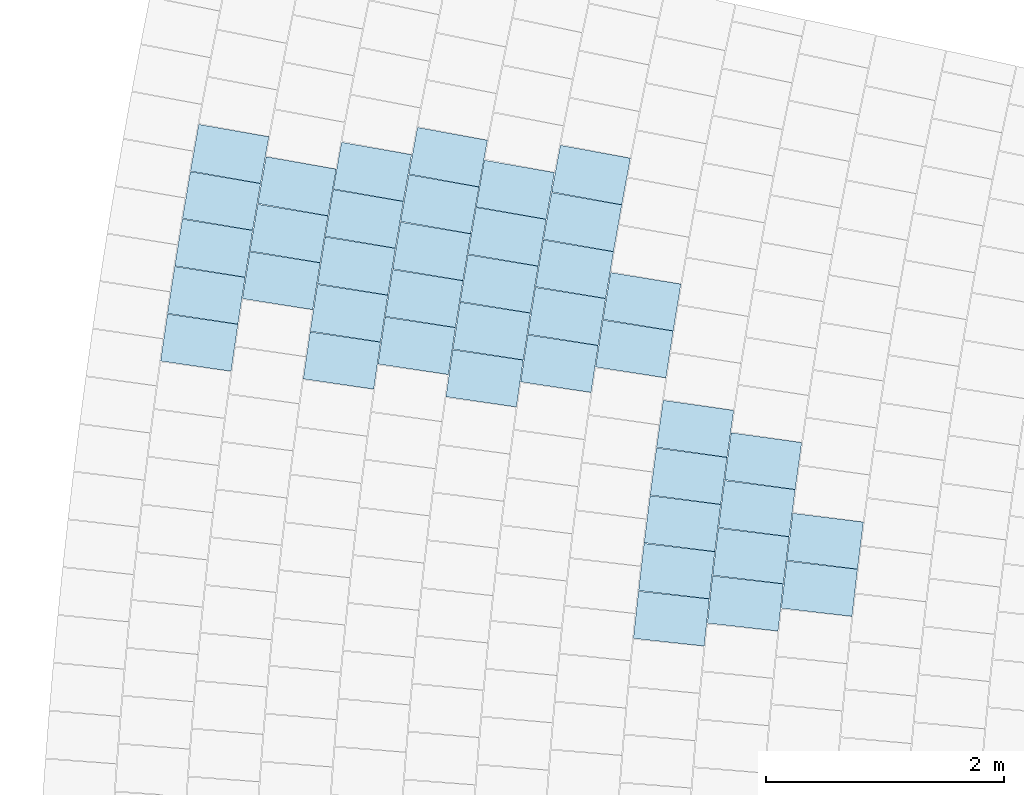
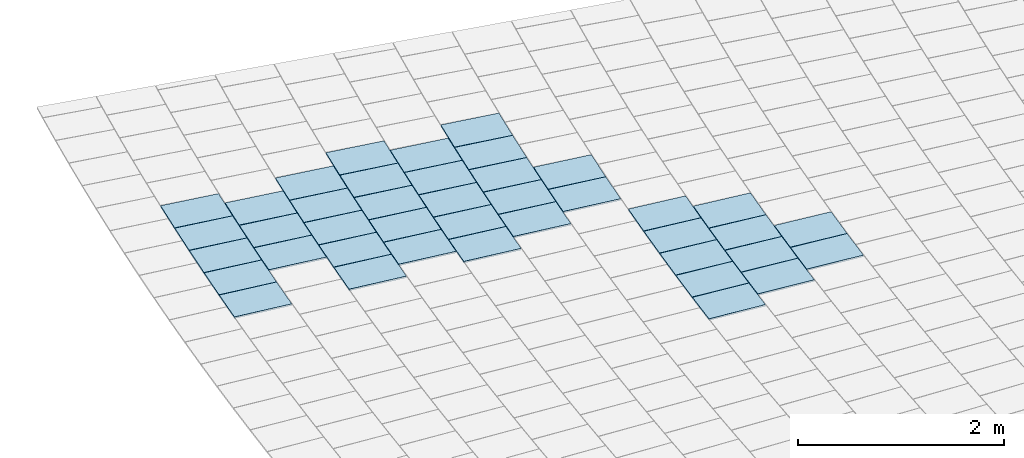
# One storey, part 90 of 438: 41 slabs.
"""IFC2X3 building model written with IfcOpenShell, lengths in millimetres."""

from ifc_helpers import new_model, entity, si_unit, converted_unit, derived_unit, direction, frame, frame_2d, origin, origin_2d_with_axis, place, context, subcontext, project, spatial, polyline, rectangle, outline, extrude, material, layer, layer_set, layer_usage, type_object, element, save


model = new_model("IFC2X3")

# Units and contexts
model_context = context("Model", 3, precision=0.01, world=origin(), true_north=direction((6.123031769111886e-17, 1.0)))
body_context = subcontext(model_context, "Body", "Model", "MODEL_VIEW")
ifc_project = project(units=[si_unit("LENGTHUNIT", "METRE", prefix="MILLI"), si_unit("AREAUNIT", "SQUARE_METRE"), si_unit("VOLUMEUNIT", "CUBIC_METRE"), converted_unit("PLANEANGLEUNIT", "DEGREE", entity("IfcRatioMeasure", 0.017453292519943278), si_unit("PLANEANGLEUNIT", "RADIAN"), dimensions=[0, 0, 0, 0, 0, 0, 0]), si_unit("MASSUNIT", "GRAM", prefix="KILO"), derived_unit("MASSDENSITYUNIT", [(si_unit("MASSUNIT", "GRAM", prefix="KILO"), 1), (si_unit("LENGTHUNIT", "METRE"), -3)]), derived_unit("MOMENTOFINERTIAUNIT", [(si_unit("LENGTHUNIT", "METRE"), 4)]), si_unit("TIMEUNIT", "SECOND"), si_unit("FREQUENCYUNIT", "HERTZ"), si_unit("THERMODYNAMICTEMPERATUREUNIT", "DEGREE_CELSIUS"), derived_unit("THERMALTRANSMITTANCEUNIT", [(si_unit("MASSUNIT", "GRAM", prefix="KILO"), 1), (si_unit("THERMODYNAMICTEMPERATUREUNIT", "KELVIN"), -1), (si_unit("TIMEUNIT", "SECOND"), -3)]), derived_unit("THERMALCONDUCTANCEUNIT", [(si_unit("MASSUNIT", "GRAM", prefix="KILO"), 1), (si_unit("LENGTHUNIT", "METRE"), 1), (si_unit("THERMODYNAMICTEMPERATUREUNIT", "KELVIN"), -1), (si_unit("TIMEUNIT", "SECOND"), -3)]), derived_unit("VOLUMETRICFLOWRATEUNIT", [(si_unit("LENGTHUNIT", "METRE"), 3), (si_unit("TIMEUNIT", "SECOND"), -1)]), derived_unit("MASSFLOWRATEUNIT", [(si_unit("MASSUNIT", "GRAM", prefix="KILO"), 1), (si_unit("TIMEUNIT", "SECOND"), -1)]), derived_unit("ROTATIONALFREQUENCYUNIT", [(si_unit("TIMEUNIT", "SECOND"), -1)]), si_unit("ELECTRICCURRENTUNIT", "AMPERE"), si_unit("ELECTRICVOLTAGEUNIT", "VOLT"), si_unit("POWERUNIT", "WATT"), converted_unit("FORCEUNIT", "KIP", entity("IfcRatioMeasure", 2.088543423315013e-05), si_unit("FORCEUNIT", "NEWTON"), dimensions=[1, 1, -2, 0, 0, 0, 0]), si_unit("ILLUMINANCEUNIT", "LUX"), si_unit("LUMINOUSFLUXUNIT", "LUMEN"), si_unit("LUMINOUSINTENSITYUNIT", "CANDELA"), derived_unit("USERDEFINED", [(si_unit("MASSUNIT", "GRAM", prefix="KILO"), -1), (si_unit("LENGTHUNIT", "METRE"), -2), (si_unit("TIMEUNIT", "SECOND"), 3), (si_unit("LUMINOUSFLUXUNIT", "LUMEN"), 1)]), derived_unit("USERDEFINED", [(si_unit("MASSUNIT", "GRAM", prefix="KILO"), 1), (si_unit("LENGTHUNIT", "METRE"), 3), (si_unit("TIMEUNIT", "SECOND"), -3), (si_unit("ELECTRICCURRENTUNIT", "AMPERE"), -2)]), derived_unit("USERDEFINED", [(si_unit("LENGTHUNIT", "METRE"), 2), (si_unit("TIMEUNIT", "SECOND"), -2)]), derived_unit("SOUNDPOWERUNIT", [(si_unit("MASSUNIT", "GRAM", prefix="KILO"), 1), (si_unit("LENGTHUNIT", "METRE"), 2), (si_unit("TIMEUNIT", "SECOND"), -3)]), derived_unit("SOUNDPRESSUREUNIT", [(si_unit("MASSUNIT", "GRAM", prefix="KILO"), 1), (si_unit("LENGTHUNIT", "METRE"), -1), (si_unit("TIMEUNIT", "SECOND"), -2)]), derived_unit("LINEARVELOCITYUNIT", [(si_unit("LENGTHUNIT", "METRE"), 1), (si_unit("TIMEUNIT", "SECOND"), -1)]), si_unit("PRESSUREUNIT", "PASCAL"), derived_unit("USERDEFINED", [(si_unit("LENGTHUNIT", "METRE"), -2), (si_unit("MASSUNIT", "GRAM", prefix="KILO"), 1), (si_unit("TIMEUNIT", "SECOND"), -2)]), derived_unit("LINEARFORCEUNIT", [(si_unit("MASSUNIT", "GRAM", prefix="KILO"), 1), (si_unit("LENGTHUNIT", "METRE"), 1), (si_unit("TIMEUNIT", "SECOND"), -2), (si_unit("LENGTHUNIT", "METRE"), -1)]), derived_unit("PLANARFORCEUNIT", [(si_unit("MASSUNIT", "GRAM", prefix="KILO"), 1), (si_unit("LENGTHUNIT", "METRE"), 1), (si_unit("TIMEUNIT", "SECOND"), -2), (si_unit("LENGTHUNIT", "METRE"), -2)]), derived_unit("SPECIFICHEATCAPACITYUNIT", [(si_unit("LENGTHUNIT", "METRE"), 2), (si_unit("TIMEUNIT", "SECOND"), -2), (si_unit("THERMODYNAMICTEMPERATUREUNIT", "KELVIN"), -1)]), derived_unit("VAPORPERMEABILITYUNIT", [(si_unit("TIMEUNIT", "SECOND"), 1), (si_unit("LENGTHUNIT", "METRE"), -1)]), derived_unit("DYNAMICVISCOSITYUNIT", [(si_unit("MASSUNIT", "GRAM", prefix="KILO"), 1), (si_unit("LENGTHUNIT", "METRE"), -1), (si_unit("TIMEUNIT", "SECOND"), -1)]), derived_unit("THERMALEXPANSIONCOEFFICIENTUNIT", [(si_unit("THERMODYNAMICTEMPERATUREUNIT", "KELVIN"), -1)])], contexts=[model_context])

# Site, building, storey
site_placement = place(None, frame((0.0, 0.0, 0.0), z_axis=(0.0, 0.0, 1.0), x_axis=(0.8191520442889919, 0.5735764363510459, 0.0)))
site = spatial("IfcSite", under=ifc_project, at=site_placement, Name="Default", CompositionType="ELEMENT")
building_placement = place(site_placement, origin())
building = spatial("IfcBuilding", under=site, at=building_placement, CompositionType="ELEMENT")
storey_placement = place(building_placement, origin())
storey = spatial("IfcBuildingStorey", under=building, at=storey_placement, Name="PLAN", CompositionType="ELEMENT", Elevation=0.0)

# Slabs
ifc_material = material(Name="Paint-01")
ifc_layer = layer(ifc_material, 20.00000000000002)
ifc_layer_set = layer_set([ifc_layer], Name="Floor:Slab-179:1000")
ifc_layer_usage = layer_usage(ifc_layer_set, "AXIS3", "POSITIVE", 0.0)
slab_type = type_object("IfcSlabType", Name="Floor:Slab-179:1000", PredefinedType="FLOOR", material=ifc_layer_set)
slab_1_placement = place(storey_placement, origin())
element("IfcSlab", 1, at=slab_1_placement, inside=storey, type_object=slab_type, material=ifc_layer_usage, Name="Floor:Slab-179:1000", ObjectType="Floor:Slab-179:1000", PredefinedType="FLOOR", context=body_context, shape_type="SweptSolid", body=[
    extrude(outline(polyline([(-300.0, -200.0000029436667), (299.9999976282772, -200.0000029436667), (300.0, 200.00000294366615), (-299.9999976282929, 200.00000294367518), (-300.0, -200.0000029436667)])), frame((-74810.87647512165, -36460.84597820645, 520.0), z_axis=(0.0, 0.0, -1.0), x_axis=(0.7385173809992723, -0.6742344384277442, 0.0)), (0.0, 0.0, 1.0), 20.000000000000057),
])
slab_2_placement = place(storey_placement, origin())
element("IfcSlab", 2, at=slab_2_placement, inside=storey, type_object=slab_type, material=ifc_layer_usage, Name="Floor:Slab-179:1000", ObjectType="Floor:Slab-179:1000", PredefinedType="FLOOR", context=body_context, shape_type="SweptSolid", body=[
    extrude(outline(polyline([(-300.0, -200.0000029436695), (299.9999976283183, -200.00000294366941), (300.0, 200.0000029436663), (-299.9999976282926, 200.00000294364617), (-300.0, -200.0000029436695)])), frame((-74497.71648717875, -37015.777735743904, 520.0), z_axis=(0.0, 0.0, -1.0), x_axis=(0.7414166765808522, -0.6710449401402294, 0.0)), (0.0, 0.0, 1.0), 20.000000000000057),
])
slab_3_placement = place(storey_placement, origin())
element("IfcSlab", 3, at=slab_3_placement, inside=storey, type_object=slab_type, material=ifc_layer_usage, Name="Floor:Slab-179:1000", ObjectType="Floor:Slab-179:1000", PredefinedType="FLOOR", context=body_context, shape_type="SweptSolid", body=[
    extrude(outline(polyline([(-300.0, -200.00000294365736), (299.9999976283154, -200.00000294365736), (300.0, 200.00000294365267), (-299.99999762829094, 200.0000029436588), (-300.0, -200.00000294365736)])), frame((-74766.58404899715, -37315.46142277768, 520.0), z_axis=(0.0, 0.0, -1.0), x_axis=(0.7472495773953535, -0.6645435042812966, 0.0)), (0.0, 0.0, 1.0), 20.000000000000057),
])
slab_4_placement = place(storey_placement, origin())
element("IfcSlab", 4, at=slab_4_placement, inside=storey, type_object=slab_type, material=ifc_layer_usage, Name="Floor:Slab-179:1000", ObjectType="Floor:Slab-179:1000", PredefinedType="FLOOR", context=body_context, shape_type="SweptSolid", body=[
    extrude(outline(polyline([(-299.99999762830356, -200.000002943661), (300.0, -200.0000029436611), (299.99999762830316, 200.00000294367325), (-300.0, 200.00000294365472), (-299.99999762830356, -200.000002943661)])), frame((-74538.16251388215, -36164.70455100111, 520.0), z_axis=(0.0, 0.0, -1.0), x_axis=(0.7326776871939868, -0.6805757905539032, 0.0)), (0.0, 0.0, 1.0), 20.000000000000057),
])
slab_5_placement = place(storey_placement, origin())
element("IfcSlab", 5, at=slab_5_placement, inside=storey, type_object=slab_type, material=ifc_layer_usage, Name="Floor:Slab-179:1000", ObjectType="Floor:Slab-179:1000", PredefinedType="FLOOR", context=body_context, shape_type="SweptSolid", body=[
    extrude(outline(polyline([(-300.0, -200.00000294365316), (299.9999976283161, -200.00000294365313), (300.0, 200.00000294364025), (-299.9999976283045, 200.000002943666), (-300.0, -200.00000294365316)])), frame((-75081.02740540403, -36759.32733851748, 520.0), z_axis=(0.0, 0.0, -1.0), x_axis=(0.7443021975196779, -0.6678429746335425, 0.0)), (0.0, 0.0, 1.0), 20.000000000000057),
])
slab_6_placement = place(storey_placement, origin())
element("IfcSlab", 6, at=slab_6_placement, inside=storey, type_object=slab_type, material=ifc_layer_usage, Name="Floor:Slab-179:1000", ObjectType="Floor:Slab-179:1000", PredefinedType="FLOOR", context=body_context, shape_type="SweptSolid", body=[
    extrude(outline(polyline([(-300.0, -200.00000294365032), (299.99999762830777, -200.00000294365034), (300.0, 200.00000294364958), (-299.9999976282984, 200.00000294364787), (-300.0, -200.00000294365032)])), frame((-75348.59523015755, -37060.126452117, 520.0), z_axis=(0.0, 0.0, -1.0), x_axis=(0.7500317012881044, -0.6614018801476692, 0.0)), (0.0, 0.0, 1.0), 20.000000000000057),
])
slab_7_placement = place(storey_placement, origin())
element("IfcSlab", 7, at=slab_7_placement, inside=storey, type_object=slab_type, material=ifc_layer_usage, Name="Floor:Slab-179:1000", ObjectType="Floor:Slab-179:1000", PredefinedType="FLOOR", context=body_context, shape_type="SweptSolid", body=[
    extrude(outline(polyline([(-300.0, -200.00000294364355), (299.9999976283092, -200.00000294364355), (300.0, 200.00000294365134), (-299.9999976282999, 200.00000294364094), (-300.0, -200.00000294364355)])), frame((-75396.56206229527, -36205.72643302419, 520.0), z_axis=(0.0, 0.0, -1.0), x_axis=(0.7414532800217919, -0.6710044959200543, 0.0)), (0.0, 0.0, 1.0), 19.99999999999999),
])
slab_8_placement = place(storey_placement, origin())
element("IfcSlab", 8, at=slab_8_placement, inside=storey, type_object=slab_type, material=ifc_layer_usage, Name="Floor:Slab-179:1000", ObjectType="Floor:Slab-179:1000", PredefinedType="FLOOR", context=body_context, shape_type="SweptSolid", body=[
    extrude(outline(polyline([(-300.0, -200.00000294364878), (299.99999762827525, -200.00000294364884), (300.0, 200.00000294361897), (-299.9999976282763, 200.00000294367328), (-300.0, -200.00000294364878)])), frame((-75125.18218441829, -35908.406930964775, 520.0), z_axis=(0.0, 0.0, -1.0), x_axis=(0.7357164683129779, -0.6772896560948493, 0.0)), (0.0, 0.0, 1.0), 19.99999999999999),
])
slab_9_placement = place(storey_placement, origin())
element("IfcSlab", 9, at=slab_9_placement, inside=storey, type_object=slab_type, material=ifc_layer_usage, Name="Floor:Slab-179:1000", ObjectType="Floor:Slab-179:1000", PredefinedType="FLOOR", context=body_context, shape_type="SweptSolid", body=[
    extrude(outline(polyline([(-300.0, -200.00000294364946), (299.99999762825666, -200.00000294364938), (300.0, 200.00000294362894), (-299.99999762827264, 200.00000294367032), (-300.0, -200.00000294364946)])), frame((-74851.28206861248, -35613.407522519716, 520.0), z_axis=(0.0, 0.0, -1.0), x_axis=(0.7299263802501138, -0.6835257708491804, 0.0)), (0.0, 0.0, 1.0), 20.000000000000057),
])
slab_10_placement = place(storey_placement, origin())
element("IfcSlab", 10, at=slab_10_placement, inside=storey, type_object=slab_type, material=ifc_layer_usage, Name="Floor:Slab-179:1000", ObjectType="Floor:Slab-179:1000", PredefinedType="FLOOR", context=body_context, shape_type="SweptSolid", body=[
    extrude(outline(polyline([(-299.9999976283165, -200.0000029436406), (300.0, -200.00000294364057), (299.9999976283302, 200.0000029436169), (-300.0, 200.00000294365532), (-299.9999976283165, -200.0000029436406)])), frame((-75665.40205047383, -36505.34449853, 520.0), z_axis=(0.0, 0.0, -1.0), x_axis=(0.7471363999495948, -0.6646707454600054, 0.0)), (0.0, 0.0, 1.0), 19.99999999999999),
])
slab_11_placement = place(storey_placement, origin())
element("IfcSlab", 11, at=slab_11_placement, inside=storey, type_object=slab_type, material=ifc_layer_usage, Name="Floor:Slab-179:1000", ObjectType="Floor:Slab-179:1000", PredefinedType="FLOOR", context=body_context, shape_type="SweptSolid", body=[
    extrude(outline(polyline([(-299.99999762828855, -200.00000294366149), (300.0, -200.0000029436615), (299.9999976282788, 200.000002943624), (-300.0, 200.00000294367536), (-299.99999762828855, -200.00000294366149)])), frame((-75931.68268110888, -36807.2394308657, 520.0), z_axis=(0.0, 0.0, -1.0), x_axis=(0.7527654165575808, -0.6582888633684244, 0.0)), (0.0, 0.0, 1.0), 19.999999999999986),
])
slab_12_placement = place(storey_placement, origin())
element("IfcSlab", 12, at=slab_12_placement, inside=storey, type_object=slab_type, material=ifc_layer_usage, Name="Floor:Slab-179:1000", ObjectType="Floor:Slab-179:1000", PredefinedType="FLOOR", context=body_context, shape_type="SweptSolid", body=[
    extrude(outline(polyline([(-300.0, -200.00000294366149), (299.99999762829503, -200.0000029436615), (300.0, 200.00000294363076), (-299.99999762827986, 200.00000294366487), (-300.0, -200.00000294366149)])), frame((-74884.60050148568, -34769.247682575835, 520.0), z_axis=(0.0, 0.0, -1.0), x_axis=(0.7214044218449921, -0.6925140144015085, 0.0)), (0.0, 0.0, 1.0), 20.000000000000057),
])
slab_13_placement = place(storey_placement, origin())
element("IfcSlab", 13, at=slab_13_placement, inside=storey, type_object=slab_type, material=ifc_layer_usage, Name="Floor:Slab-179:1000", ObjectType="Floor:Slab-179:1000", PredefinedType="FLOOR", context=body_context, shape_type="SweptSolid", body=[
    extrude(outline(polyline([(-300.0, -200.0000029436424), (299.99999762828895, -200.00000294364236), (300.0, 200.00000294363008), (-299.99999762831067, 200.00000294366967), (-300.0, -200.0000029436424)])), frame((-74604.63453712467, -34480.043705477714, 520.0), z_axis=(0.0, 0.0, -1.0), x_axis=(0.7155608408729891, -0.6985504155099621, 0.0)), (0.0, 0.0, 1.0), 20.000000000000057),
])
slab_14_placement = place(storey_placement, origin())
element("IfcSlab", 14, at=slab_14_placement, inside=storey, type_object=slab_type, material=ifc_layer_usage, Name="Floor:Slab-179:1000", ObjectType="Floor:Slab-179:1000", PredefinedType="FLOOR", context=body_context, shape_type="SweptSolid", body=[
    extrude(outline(polyline([(-300.0, -200.00000294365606), (299.99999762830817, -200.00000294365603), (300.0, 200.0000029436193), (-299.99999762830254, 200.00000294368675), (-300.0, -200.00000294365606)])), frame((-75193.8333011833, -34218.25282970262, 520.0), z_axis=(0.0, 0.0, -1.0), x_axis=(0.7187822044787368, -0.6952353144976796, 0.0)), (0.0, 0.0, 1.0), 20.000000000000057),
])
slab_15_placement = place(storey_placement, origin())
element("IfcSlab", 15, at=slab_15_placement, inside=storey, type_object=slab_type, material=ifc_layer_usage, Name="Floor:Slab-179:1000", ObjectType="Floor:Slab-179:1000", PredefinedType="FLOOR", context=body_context, shape_type="SweptSolid", body=[
    extrude(outline(polyline([(-300.0, -200.00000294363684), (299.99999762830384, -200.00000294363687), (300.0, 200.00000294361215), (-299.99999762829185, 200.0000029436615), (-300.0, -200.00000294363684)])), frame((-74912.81361977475, -33930.11669514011, 520.0), z_axis=(0.0, 0.0, -1.0), x_axis=(0.7129897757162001, -0.7011744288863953, 0.0)), (0.0, 0.0, 1.0), 20.000000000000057),
])
slab_16_placement = place(storey_placement, origin())
element("IfcSlab", 16, at=slab_16_placement, inside=storey, type_object=slab_type, material=ifc_layer_usage, Name="Floor:Slab-179:1000", ObjectType="Floor:Slab-179:1000", PredefinedType="FLOOR", context=body_context, shape_type="SweptSolid", body=[
    extrude(rectangle(XDim=599.9999963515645, YDim=400.00000519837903, at=frame_2d((-1.5063505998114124e-12, -1.5205614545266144e-12), x_axis=(1.0, 0.0))), frame((-74629.39247438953, -33644.31767525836, 520.0), z_axis=(0.0, 0.0, -1.0), x_axis=(0.7071067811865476, -0.7071067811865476, 0.0)), (0.0, 0.0, 1.0), 20.000000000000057),
])
slab_17_placement = place(storey_placement, origin())
element("IfcSlab", 17, at=slab_17_placement, inside=storey, type_object=slab_type, material=ifc_layer_usage, Name="Floor:Slab-179:1000", ObjectType="Floor:Slab-179:1000", PredefinedType="FLOOR", context=body_context, shape_type="SweptSolid", body=[
    extrude(outline(polyline([(-300.0, -200.00000294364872), (299.99999762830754, -200.00000294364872), (300.0, 200.0000029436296), (-299.99999762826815, 200.00000294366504), (-300.0, -200.00000294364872)])), frame((-75472.45292572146, -34508.71039665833, 520.0), z_axis=(0.0, 0.0, -1.0), x_axis=(0.7245251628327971, -0.6892483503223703, 0.0)), (0.0, 0.0, 1.0), 20.000000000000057),
])
slab_18_placement = place(storey_placement, origin())
element("IfcSlab", 18, at=slab_18_placement, inside=storey, type_object=slab_type, material=ifc_layer_usage, Name="Floor:Slab-179:1000", ObjectType="Floor:Slab-179:1000", PredefinedType="FLOOR", context=body_context, shape_type="SweptSolid", body=[
    extrude(outline(polyline([(-300.0, -200.00000294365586), (299.9999976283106, -200.0000029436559), (300.0, 200.00000294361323), (-299.9999976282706, 200.00000294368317), (-300.0, -200.00000294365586)])), frame((-74343.65161526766, -33360.88788629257, 520.0), z_axis=(0.0, 0.0, -1.0), x_axis=(0.7012581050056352, -0.7129074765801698, 0.0)), (0.0, 0.0, 1.0), 20.000000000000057),
])
slab_19_placement = place(storey_placement, origin())
element("IfcSlab", 19, at=slab_19_placement, inside=storey, type_object=slab_type, material=ifc_layer_usage, Name="Floor:Slab-179:1000", ObjectType="Floor:Slab-179:1000", PredefinedType="FLOOR", context=body_context, shape_type="SweptSolid", body=[
    extrude(outline(polyline([(-300.0, -200.00000294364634), (299.9999976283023, -200.00000294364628), (300.0, 200.00000294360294), (-299.99999762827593, 200.00000294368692), (-300.0, -200.00000294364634)])), frame((-76059.58285100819, -34248.814214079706, 520.0), z_axis=(0.0, 0.0, -1.0), x_axis=(0.7275543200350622, -0.6860500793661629, 0.0)), (0.0, 0.0, 1.0), 20.000000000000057),
])
slab_20_placement = place(storey_placement, origin())
element("IfcSlab", 20, at=slab_20_placement, inside=storey, type_object=slab_type, material=ifc_layer_usage, Name="Floor:Slab-179:1000", ObjectType="Floor:Slab-179:1000", PredefinedType="FLOOR", context=body_context, shape_type="SweptSolid", body=[
    extrude(outline(polyline([(-300.0, -200.00000294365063), (299.99999762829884, -200.0000029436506), (300.0, 200.00000294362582), (-299.9999976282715, 200.00000294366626), (-300.0, -200.00000294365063)])), frame((-75502.59990951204, -33667.74789107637, 520.0), z_axis=(0.0, 0.0, -1.0), x_axis=(0.7162150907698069, -0.6978796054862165, 0.0)), (0.0, 0.0, 1.0), 20.000000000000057),
])
slab_21_placement = place(storey_placement, origin())
element("IfcSlab", 21, at=slab_21_placement, inside=storey, type_object=slab_type, material=ifc_layer_usage, Name="Floor:Slab-179:1000", ObjectType="Floor:Slab-179:1000", PredefinedType="FLOOR", context=body_context, shape_type="SweptSolid", body=[
    extrude(outline(polyline([(-300.0, -200.00000294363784), (299.9999976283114, -200.00000294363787), (300.0, 200.00000294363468), (-299.99999762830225, 200.00000294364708), (-300.0, -200.00000294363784)])), frame((-75220.5565481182, -33380.65682927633, 520.0), z_axis=(0.0, 0.0, -1.0), x_axis=(0.7104731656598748, -0.7037242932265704, 0.0)), (0.0, 0.0, 1.0), 20.000000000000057),
])
slab_22_placement = place(storey_placement, origin())
element("IfcSlab", 22, at=slab_22_placement, inside=storey, type_object=slab_type, material=ifc_layer_usage, Name="Floor:Slab-179:1000", ObjectType="Floor:Slab-179:1000", PredefinedType="FLOOR", context=body_context, shape_type="SweptSolid", body=[
    extrude(rectangle(XDim=599.9964861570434, YDim=399.9976650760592, at=frame_2d((3.069544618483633e-12, -3.055333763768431e-12), x_axis=(1.0, 0.0))), frame((-74937.37999919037, -33096.128159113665, 520.0), z_axis=(0.0, 0.0, -1.0), x_axis=(0.7071067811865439, -0.7071067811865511, 0.0)), (0.0, 0.0, 1.0), 20.000000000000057),
])
slab_23_placement = place(storey_placement, origin())
element("IfcSlab", 23, at=slab_23_placement, inside=storey, type_object=slab_type, material=ifc_layer_usage, Name="Floor:Slab-179:1000", ObjectType="Floor:Slab-179:1000", PredefinedType="FLOOR", context=body_context, shape_type="SweptSolid", body=[
    extrude(outline(polyline([(-300.0, -200.00000294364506), (299.99999762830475, -200.00000294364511), (300.0, 200.0000029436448), (-299.99999762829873, 200.00000294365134), (-300.0, -200.00000294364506)])), frame((-75782.28160216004, -33957.1401616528, 520.0), z_axis=(0.0, 0.0, -1.0), x_axis=(0.7219089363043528, -0.6919880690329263, 0.0)), (0.0, 0.0, 1.0), 19.999999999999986),
])
slab_24_placement = place(storey_placement, origin())
element("IfcSlab", 24, at=slab_24_placement, inside=storey, type_object=slab_type, material=ifc_layer_usage, Name="Floor:Slab-179:1000", ObjectType="Floor:Slab-179:1000", PredefinedType="FLOOR", context=body_context, shape_type="SweptSolid", body=[
    extrude(outline(polyline([(-300.0, -200.0000029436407), (299.999997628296, -200.0000029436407), (300.0, 200.0000029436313), (-299.9999976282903, 200.0000029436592), (-300.0, -200.0000029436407)])), frame((-76370.00411283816, -33696.67747752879, 520.0), z_axis=(0.0, 0.0, -1.0), x_axis=(0.7249449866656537, -0.6888067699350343, 0.0)), (0.0, 0.0, 1.0), 19.99999999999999),
])
slab_25_placement = place(storey_placement, origin())
element("IfcSlab", 25, at=slab_25_placement, inside=storey, type_object=slab_type, material=ifc_layer_usage, Name="Floor:Slab-179:1000", ObjectType="Floor:Slab-179:1000", PredefinedType="FLOOR", context=body_context, shape_type="SweptSolid", body=[
    extrude(outline(polyline([(-300.0, -200.00000294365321), (299.9999976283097, -200.00000294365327), (300.0, 200.00000294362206), (-299.99999762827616, 200.000002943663), (-300.0, -200.00000294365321)])), frame((-76091.63306195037, -33406.06580761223, 520.0), z_axis=(0.0, 0.0, -1.0), x_axis=(0.7193467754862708, -0.6946511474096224, 0.0)), (0.0, 0.0, 1.0), 19.999999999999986),
])
slab_26_placement = place(storey_placement, origin())
element("IfcSlab", 26, at=slab_26_placement, inside=storey, type_object=slab_type, material=ifc_layer_usage, Name="Floor:Slab-179:1000", ObjectType="Floor:Slab-179:1000", PredefinedType="FLOOR", context=body_context, shape_type="SweptSolid", body=[
    extrude(outline(polyline([(-300.0, -200.00000294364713), (299.9999976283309, -200.00000294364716), (300.0, 200.00000294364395), (-299.9999976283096, 200.00000294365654), (-300.0, -200.00000294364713)])), frame((-75810.91922505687, -33117.71649438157, 520.0), z_axis=(0.0, 0.0, -1.0), x_axis=(0.7137014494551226, -0.7004500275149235, 0.0)), (0.0, 0.0, 1.0), 19.99999999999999),
])
slab_27_placement = place(storey_placement, origin())
element("IfcSlab", 27, at=slab_27_placement, inside=storey, type_object=slab_type, material=ifc_layer_usage, Name="Floor:Slab-179:1000", ObjectType="Floor:Slab-179:1000", PredefinedType="FLOOR", context=body_context, shape_type="SweptSolid", body=[
    extrude(rectangle(XDim=599.9995079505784, YDim=399.99967959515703, at=frame_2d((-1.5063505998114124e-12, 4.575895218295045e-12), x_axis=(1.0, 0.0))), frame((-75527.42940026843, -32831.55810713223, 520.0), z_axis=(0.0, 0.0, -1.0), x_axis=(0.7071067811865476, -0.7071067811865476, 0.0)), (0.0, 0.0, 1.0), 19.999999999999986),
])
slab_28_placement = place(storey_placement, origin())
element("IfcSlab", 28, at=slab_28_placement, inside=storey, type_object=slab_type, material=ifc_layer_usage, Name="Floor:Slab-179:1000", ObjectType="Floor:Slab-179:1000", PredefinedType="FLOOR", context=body_context, shape_type="SweptSolid", body=[
    extrude(outline(polyline([(-300.0, -200.00000294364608), (299.999997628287, -200.00000294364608), (300.0, 200.00000294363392), (-299.9999976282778, 200.00000294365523), (-300.0, -200.00000294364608)])), frame((-75242.53688883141, -32547.880332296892, 520.0), z_axis=(0.0, 0.0, -1.0), x_axis=(0.7022709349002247, -0.7119097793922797, 0.0)), (0.0, 0.0, 1.0), 20.000000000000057),
])
slab_29_placement = place(storey_placement, origin())
element("IfcSlab", 29, at=slab_29_placement, inside=storey, type_object=slab_type, material=ifc_layer_usage, Name="Floor:Slab-179:1000", ObjectType="Floor:Slab-179:1000", PredefinedType="FLOOR", context=body_context, shape_type="SweptSolid", body=[
    extrude(outline(polyline([(-300.0, -200.000002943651), (299.99999762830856, -200.000002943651), (300.0, 200.00000294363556), (-299.99999762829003, 200.00000294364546), (-300.0, -200.000002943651)])), frame((-76957.0244645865, -33436.83806545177, 520.0), z_axis=(0.0, 0.0, -1.0), x_axis=(0.727894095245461, -0.6856895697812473, 0.0)), (0.0, 0.0, 1.0), 19.999999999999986),
])
slab_30_placement = place(storey_placement, origin())
element("IfcSlab", 30, at=slab_30_placement, inside=storey, type_object=slab_type, material=ifc_layer_usage, Name="Floor:Slab-179:1000", ObjectType="Floor:Slab-179:1000", PredefinedType="FLOOR", context=body_context, shape_type="SweptSolid", body=[
    extrude(outline(polyline([(-300.0, -200.0000029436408), (299.99999762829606, -200.00000294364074), (300.0, 200.00000294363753), (-299.99999762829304, 200.0000029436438), (-300.0, -200.0000029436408)])), frame((-76400.52642338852, -32855.471008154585, 520.0), z_axis=(0.0, 0.0, -1.0), x_axis=(0.7168371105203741, -0.6972406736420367, 0.0)), (0.0, 0.0, 1.0), 19.99999999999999),
])
slab_31_placement = place(storey_placement, origin())
element("IfcSlab", 31, at=slab_31_placement, inside=storey, type_object=slab_type, material=ifc_layer_usage, Name="Floor:Slab-179:1000", ObjectType="Floor:Slab-179:1000", PredefinedType="FLOOR", context=body_context, shape_type="SweptSolid", body=[
    extrude(outline(polyline([(-300.0, -200.00000294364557), (299.9999976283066, -200.00000294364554), (300.0, 200.00000294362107), (-299.9999976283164, 200.0000029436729), (-300.0, -200.00000294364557)])), frame((-76679.93748089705, -33145.04220810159, 520.0), z_axis=(0.0, 0.0, -1.0), x_axis=(0.7223886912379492, -0.6914872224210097, 0.0)), (0.0, 0.0, 1.0), 19.99999999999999),
])
slab_32_placement = place(storey_placement, origin())
element("IfcSlab", 32, at=slab_32_placement, inside=storey, type_object=slab_type, material=ifc_layer_usage, Name="Floor:Slab-179:1000", ObjectType="Floor:Slab-179:1000", PredefinedType="FLOOR", context=body_context, shape_type="SweptSolid", body=[
    extrude(outline(polyline([(-300.0, -200.00000294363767), (299.9999976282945, -200.00000294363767), (300.0, 200.00000294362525), (-299.99999762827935, 200.00000294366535), (-300.0, -200.00000294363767)])), frame((-76118.80915264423, -32568.14297565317, 520.0), z_axis=(0.0, 0.0, -1.0), x_axis=(0.711239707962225, -0.7029495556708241, 0.0)), (0.0, 0.0, 1.0), 20.000000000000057),
])
slab_33_placement = place(storey_placement, origin())
element("IfcSlab", 33, at=slab_33_placement, inside=storey, type_object=slab_type, material=ifc_layer_usage, Name="Floor:Slab-179:1000", ObjectType="Floor:Slab-179:1000", PredefinedType="FLOOR", context=body_context, shape_type="SweptSolid", body=[
    extrude(rectangle(XDim=599.9986323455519, YDim=399.99909586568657, at=frame_2d((1.5347723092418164e-12, 1.5205614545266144e-12), x_axis=(1.0, 0.0))), frame((-75835.55784147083, -32283.227311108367, 520.0), z_axis=(0.0, 0.0, -1.0), x_axis=(0.7071067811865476, -0.7071067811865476, 0.0)), (0.0, 0.0, 1.0), 20.000000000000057),
])
slab_34_placement = place(storey_placement, origin())
element("IfcSlab", 34, at=slab_34_placement, inside=storey, type_object=slab_type, material=ifc_layer_usage, Name="Floor:Slab-179:1000", ObjectType="Floor:Slab-179:1000", PredefinedType="FLOOR", context=body_context, shape_type="SweptSolid", body=[
    extrude(outline(polyline([(-300.0, -200.00000294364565), (299.9999976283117, -200.00000294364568), (300.0, 200.00000294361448), (-299.9999976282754, 200.00000294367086), (-300.0, -200.00000294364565)])), frame((-76989.40227411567, -32593.89213728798, 520.0), z_axis=(0.0, 0.0, -1.0), x_axis=(0.719883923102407, -0.6940944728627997, 0.0)), (0.0, 0.0, 1.0), 20.000000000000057),
])
slab_35_placement = place(storey_placement, origin())
element("IfcSlab", 35, at=slab_35_placement, inside=storey, type_object=slab_type, material=ifc_layer_usage, Name="Floor:Slab-179:1000", ObjectType="Floor:Slab-179:1000", PredefinedType="FLOOR", context=body_context, shape_type="SweptSolid", body=[
    extrude(rectangle(XDim=599.9982147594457, YDim=399.99881746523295, at=frame_2d((4.604316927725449e-12, -1.5205614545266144e-12), x_axis=(1.0, 0.0))), frame((-76425.42483144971, -32018.839976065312, 520.0), z_axis=(0.0, 0.0, -1.0), x_axis=(0.7071067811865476, -0.7071067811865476, 0.0)), (0.0, 0.0, 1.0), 19.999999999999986),
])
slab_36_placement = place(storey_placement, origin())
element("IfcSlab", 36, at=slab_36_placement, inside=storey, type_object=slab_type, material=ifc_layer_usage, Name="Floor:Slab-179:1000", ObjectType="Floor:Slab-179:1000", PredefinedType="FLOOR", context=body_context, shape_type="SweptSolid", body=[
    extrude(outline(polyline([(-300.0, -200.00000294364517), (299.9999976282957, -200.00000294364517), (300.0, 200.00000294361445), (-299.9999976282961, 200.00000294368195), (-300.0, -200.00000294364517)])), frame((-76708.97981139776, -32305.340132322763, 520.0), z_axis=(0.0, 0.0, -1.0), x_axis=(0.7143784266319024, -0.6997595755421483, 0.0)), (0.0, 0.0, 1.0), 20.000000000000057),
])
slab_37_placement = place(storey_placement, origin())
element("IfcSlab", 37, at=slab_37_placement, inside=storey, type_object=slab_type, material=ifc_layer_usage, Name="Floor:Slab-179:1000", ObjectType="Floor:Slab-179:1000", PredefinedType="FLOOR", context=body_context, shape_type="SweptSolid", body=[
    extrude(outline(polyline([(-300.0, -200.00000294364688), (299.99999762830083, -200.00000294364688), (300.0, 200.0000029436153), (-299.9999976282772, 200.00000294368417), (-300.0, -200.00000294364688)])), frame((-77577.569920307, -32332.953125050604, 520.0), z_axis=(0.0, 0.0, -1.0), x_axis=(0.7228454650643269, -0.6910097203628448, 0.0)), (0.0, 0.0, 1.0), 20.000000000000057),
])
slab_38_placement = place(storey_placement, origin())
element("IfcSlab", 38, at=slab_38_placement, inside=storey, type_object=slab_type, material=ifc_layer_usage, Name="Floor:Slab-179:1000", ObjectType="Floor:Slab-179:1000", PredefinedType="FLOOR", context=body_context, shape_type="SweptSolid", body=[
    extrude(outline(polyline([(-300.0, -200.00000294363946), (299.9999976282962, -200.00000294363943), (300.0, 200.00000294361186), (-299.9999976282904, 200.00000294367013), (-300.0, -200.00000294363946)])), frame((-77017.01042042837, -31755.65820877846, 520.0), z_axis=(0.0, 0.0, -1.0), x_axis=(0.7119692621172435, -0.7022106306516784, 0.0)), (0.0, 0.0, 1.0), 19.999999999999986),
])
slab_39_placement = place(storey_placement, origin())
element("IfcSlab", 39, at=slab_39_placement, inside=storey, type_object=slab_type, material=ifc_layer_usage, Name="Floor:Slab-179:1000", ObjectType="Floor:Slab-179:1000", PredefinedType="FLOOR", context=body_context, shape_type="SweptSolid", body=[
    extrude(outline(polyline([(-300.0, -200.0000029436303), (299.9999976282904, -200.00000294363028), (300.0, 200.0000029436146), (-299.99999762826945, 200.0000029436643), (-300.0, -200.0000029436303)])), frame((-77298.41681932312, -32043.211678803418, 520.0), z_axis=(0.0, 0.0, -1.0), x_axis=(0.7174292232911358, -0.6966314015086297, 0.0)), (0.0, 0.0, 1.0), 20.000000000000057),
])
slab_40_placement = place(storey_placement, origin())
element("IfcSlab", 40, at=slab_40_placement, inside=storey, type_object=slab_type, material=ifc_layer_usage, Name="Floor:Slab-179:1000", ObjectType="Floor:Slab-179:1000", PredefinedType="FLOOR", context=body_context, shape_type="SweptSolid", body=[
    extrude(outline(polyline([(-300.0, -200.00000294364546), (299.99999762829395, -200.00000294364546), (300.0, 200.00000294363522), (-299.99999762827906, 200.0000029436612), (-300.0, -200.00000294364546)])), frame((-77854.45271207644, -32624.864890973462, 520.0), z_axis=(0.0, 0.0, -1.0), x_axis=(0.7282176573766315, -0.685345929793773, 0.0)), (0.0, 0.0, 1.0), 20.000000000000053),
])
slab_41_placement = place(storey_placement, origin())
element("IfcSlab", 41, at=slab_41_placement, inside=storey, type_object=slab_type, material=ifc_layer_usage, Name="Floor:Slab-179:1000", ObjectType="Floor:Slab-179:1000", PredefinedType="FLOOR", context=body_context, shape_type="SweptSolid", body=[
    extrude(rectangle(XDim=599.9997511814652, YDim=399.9998417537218, at=origin_2d_with_axis()), frame((-76733.68815987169, -31470.37429661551, 520.0), z_axis=(0.0, 0.0, -1.0), x_axis=(0.7071067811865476, -0.7071067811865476, 0.0)), (0.0, 0.0, 1.0), 19.999999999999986),
])

save(model, "model.ifc")
